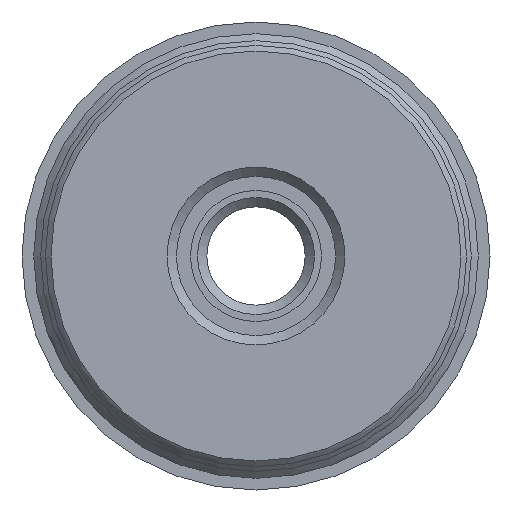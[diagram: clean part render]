
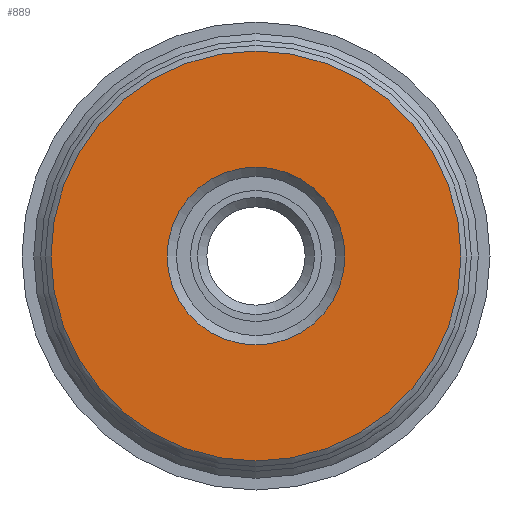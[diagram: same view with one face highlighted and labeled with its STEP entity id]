
A CAD part, front view. The second image highlights one B-rep face of the part: STEP entity #889.
In plain terms, the highlighted planar face has unit normal (0, -1, 0).
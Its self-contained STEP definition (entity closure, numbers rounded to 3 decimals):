
#830=CARTESIAN_POINT('',(-525.136,-537.109,-21.9));
#831=VERTEX_POINT('',#830);
#838=CARTESIAN_POINT('',(-525.136,-537.109,21.9));
#839=VERTEX_POINT('',#838);
#840=CARTESIAN_POINT('',(-525.136,-537.109,0.));
#841=DIRECTION('',(0.0,-1.0,0.0));
#842=DIRECTION('',(0.0,0.0,-1.0));
#843=AXIS2_PLACEMENT_3D('',#840,#841,#842);
#844=CIRCLE('',#843,21.9);
#845=EDGE_CURVE('',#839,#831,#844,.T.);
#847=CARTESIAN_POINT('',(-525.136,-537.109,0.));
#848=DIRECTION('',(0.0,-1.0,0.0));
#849=DIRECTION('',(0.0,0.0,-1.0));
#850=AXIS2_PLACEMENT_3D('',#847,#848,#849);
#851=CIRCLE('',#850,21.9);
#852=EDGE_CURVE('',#831,#839,#851,.T.);
#860=CARTESIAN_POINT('',(-552.136,-537.109,27.));
#861=DIRECTION('',(0.0,-1.0,0.0));
#862=DIRECTION('',(0.0,0.0,-1.0));
#863=AXIS2_PLACEMENT_3D('',#860,#861,#862);
#864=PLANE('',#863);
#865=ORIENTED_EDGE('',*,*,#852,.T.);
#866=ORIENTED_EDGE('',*,*,#845,.T.);
#867=EDGE_LOOP('',(#865,#866));
#868=FACE_OUTER_BOUND('',#867,.T.);
#869=CARTESIAN_POINT('',(-525.136,-537.109,9.5));
#870=VERTEX_POINT('',#869);
#871=CARTESIAN_POINT('',(-525.136,-537.109,-9.5));
#872=VERTEX_POINT('',#871);
#873=CARTESIAN_POINT('',(-525.136,-537.109,0.));
#874=DIRECTION('',(0.0,-1.0,0.0));
#875=DIRECTION('',(0.0,0.0,-1.0));
#876=AXIS2_PLACEMENT_3D('',#873,#874,#875);
#877=CIRCLE('',#876,9.5);
#878=EDGE_CURVE('',#870,#872,#877,.T.);
#879=ORIENTED_EDGE('',*,*,#878,.F.);
#880=CARTESIAN_POINT('',(-525.136,-537.109,0.));
#881=DIRECTION('',(0.0,-1.0,0.0));
#882=DIRECTION('',(0.0,0.0,-1.0));
#883=AXIS2_PLACEMENT_3D('',#880,#881,#882);
#884=CIRCLE('',#883,9.5);
#885=EDGE_CURVE('',#872,#870,#884,.T.);
#886=ORIENTED_EDGE('',*,*,#885,.F.);
#887=EDGE_LOOP('',(#879,#886));
#888=FACE_BOUND('',#887,.T.);
#889=ADVANCED_FACE('',(#868,#888),#864,.T.);
